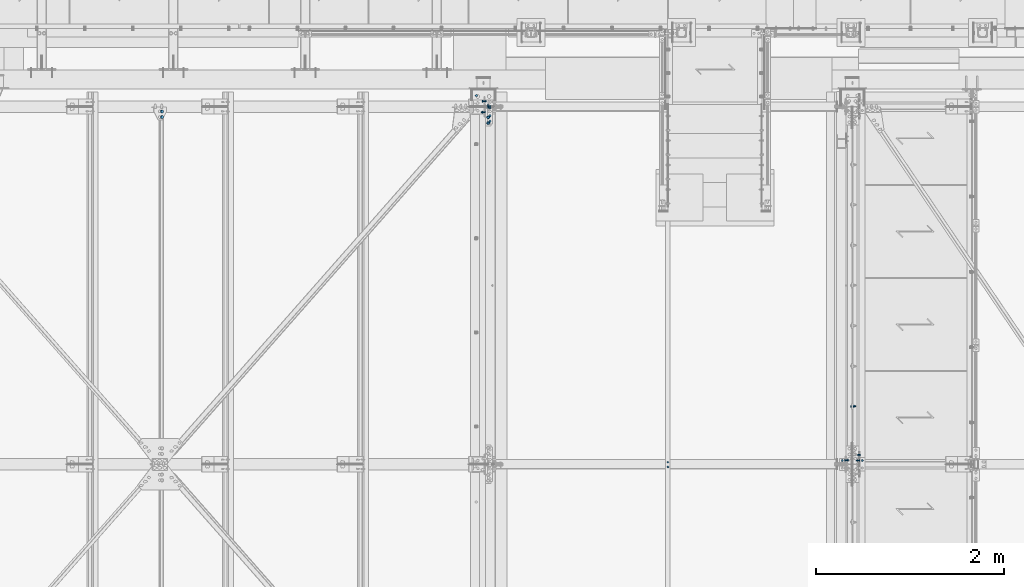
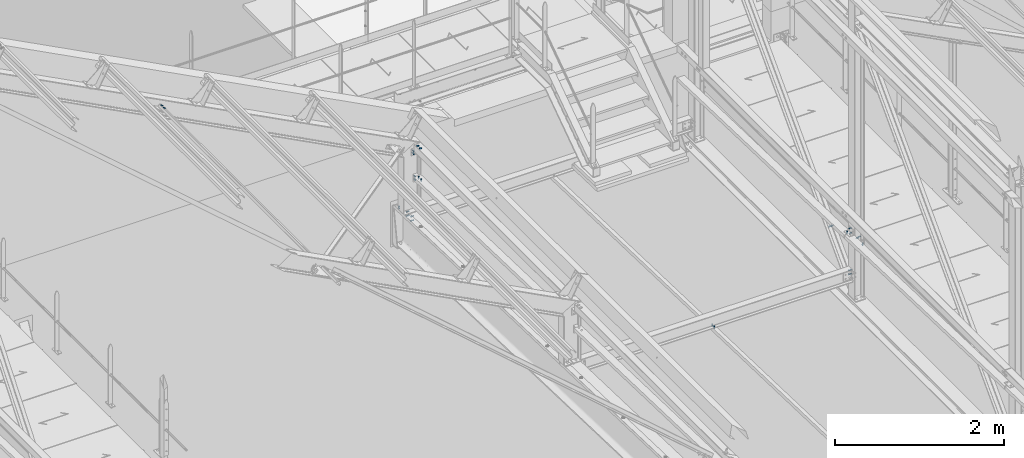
# One storey, part 285 of 362: 18 mechanical fasteners.
"""IFC2X3 building model written with IfcOpenShell, lengths in millimetres."""

from ifc_helpers import new_model, si_unit, frame, frame_2d, origin_with_axes, origin_2d_with_axis, place, context, subcontext, project, spatial, polyline, circle_curve, parameter, trimmed, segment, composite_curve, circle, outline, extrude, source, transform, mapped, material, type_object, element, save


model = new_model("IFC2X3")

# Units and contexts
model_context = context("Model", 3, precision=1e-05, world=origin_with_axes())
body_context = subcontext(model_context, "Body", "Model", "MODEL_VIEW")
ifc_project = project(units=[si_unit("LENGTHUNIT", "METRE", prefix="MILLI"), si_unit("AREAUNIT", "SQUARE_METRE"), si_unit("VOLUMEUNIT", "CUBIC_METRE"), si_unit("MASSUNIT", "GRAM", prefix="KILO"), si_unit("TIMEUNIT", "SECOND"), si_unit("PLANEANGLEUNIT", "RADIAN"), si_unit("SOLIDANGLEUNIT", "STERADIAN"), si_unit("THERMODYNAMICTEMPERATUREUNIT", "DEGREE_CELSIUS"), si_unit("LUMINOUSINTENSITYUNIT", "LUMEN")], contexts=[model_context])

# Site, building, storey
site_placement = place(None, origin_with_axes())
site = spatial("IfcSite", under=ifc_project, at=site_placement, Name="Undefined", CompositionType="ELEMENT")
building_placement = place(site_placement, origin_with_axes())
building = spatial("IfcBuilding", under=site, at=building_placement, Name="Undefined", CompositionType="ELEMENT")
storey_placement = place(building_placement, origin_with_axes())
storey = spatial("IfcBuildingStorey", under=building, at=storey_placement, Name="Undefined", CompositionType="ELEMENT", Elevation=0.0)

# Mechanical fasteners
ifc_material_1 = material(Name="6.8")
mechanical_fastener_type = type_object("IfcMechanicalFastenerType", Name="Bolt assembly")
shared_shape_1 = source(origin_with_axes(), body_context, "Body", "SweptSolid", [
    extrude(circle(Radius=15.0, at=origin_2d_with_axis()), frame((0.0, 0.0, 0.0), z_axis=(0.0, 1.0, 0.0), x_axis=(1.0, 0.0, 0.0)), (0.0, 0.0, 1.0), 4.1),
])
for number, where, z_axis, x_axis, name in (
    (1, (16133.5411394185, 15149.999981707, 10309.7121707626), (0.886081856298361, 3.500000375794e-08, -0.463528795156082), (0.0, -1.0, 0.0), "Bolt assembly"),
    (2, (19599.9999999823, 15026.5, 8550.0), (-1.0, 0.0, 0.0), (0.0, 1.0, 0.0), "Bolt assembly"),
):
    element("IfcMechanicalFastener", number, at=place(storey_placement, frame(where, z_axis=z_axis, x_axis=x_axis)), inside=storey, type_object=mechanical_fastener_type, material=ifc_material_1, Name=name, NominalDiameter=30.0, NominalLength=4.0, context=body_context, shape_type="MappedRepresentation", body=[
        mapped(shared_shape_1, transform((0.0, 0.0, 0.0))),
        mapped(shared_shape_1, transform((60.0, 0.0, 0.0))),
    ])
ifc_material_2 = material(Name="8.8-SB-ZINGUE")
shared_shape_2 = source(origin_with_axes(), body_context, "Body", "SweptSolid", [
    extrude(circle(Radius=9.0, at=origin_2d_with_axis()), frame((0.0, -10.9000000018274, 0.0), z_axis=(0.0, 1.0, 0.0), x_axis=(1.0, 0.0, 0.0)), (0.0, 0.0, 1.0), 6.0),
    extrude(circle(Radius=9.0, at=origin_2d_with_axis()), frame((0.0, 4.9000000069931, 0.0), z_axis=(0.0, 1.0, 0.0), x_axis=(1.0, 0.0, 0.0)), (0.0, 0.0, 1.0), 6.1),
    extrude(circle(Radius=9.0, at=origin_2d_with_axis()), frame((0.0, -3.99999923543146, 0.0), z_axis=(0.0, 1.0, 0.0), x_axis=(1.0, 0.0, 0.0)), (0.0, 0.0, 1.0), 8.0),
    extrude(outline(polyline([(13.85640646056, 0.0), (6.92820323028, 12.0000000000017), (-6.92820323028, 12.0000000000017), (-13.85640646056, 0.0), (-6.92820323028, -12.0000000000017), (6.92820323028, -12.0000000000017), (13.85640646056, 0.0)])), frame((0.0, -21.5600000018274, 0.0), z_axis=(0.0, 1.0, 0.0), x_axis=(1.0, 0.0, 0.0)), (0.0, 0.0, 1.0), 10.56),
    extrude(circle(Radius=8.0, at=origin_2d_with_axis()), frame((0.0, -11.0000000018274, 0.0), z_axis=(0.0, 1.0, 0.0), x_axis=(1.0, 0.0, 0.0)), (0.0, 0.0, 1.0), 50.0),
    extrude(outline(polyline([(15.3344231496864, 0.0), (7.6672115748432, 13.2800000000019), (-7.6672115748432, 13.2800000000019), (-15.3344231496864, 0.0), (-7.6672115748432, -13.2800000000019), (7.6672115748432, -13.2800000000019), (15.3344231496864, 0.0)])), frame((0.0, 11.0000000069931, 0.0), z_axis=(0.0, 1.0, 0.0), x_axis=(1.0, 0.0, 0.0)), (0.0, 0.0, 1.0), 10.56),
])
mechanical_fastener_1_placement = place(storey_placement, frame((23470.0, 12014.728612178, 7894.81795332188), z_axis=(0.0, 1.0, 0.0), x_axis=(0.0, 0.0, 1.0)))
element("IfcMechanicalFastener", 3, at=mechanical_fastener_1_placement, inside=storey, type_object=mechanical_fastener_type, material=ifc_material_2, Name="Bolt assembly", NominalDiameter=16.0, NominalLength=50.0, context=body_context, shape_type="MappedRepresentation", body=[
    mapped(shared_shape_2, transform((0.0, 0.0, 0.0))),
])
shared_shape_3 = source(origin_with_axes(), body_context, "Body", "SweptSolid", [
    extrude(circle(Radius=7.0, at=origin_2d_with_axis()), frame((0.0, -27.8982854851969, 0.0), z_axis=(0.0, 1.0, 0.0), x_axis=(1.0, 0.0, 0.0)), (0.0, 0.0, 1.0), 8.0),
    extrude(circle(Radius=7.0, at=origin_2d_with_axis()), frame((0.0, -20.0965527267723, 0.0), z_axis=(0.0, 1.0, 0.0), x_axis=(1.0, 0.0, 0.0)), (0.0, 0.0, 1.0), 5.1),
    extrude(outline(polyline([(10.39230484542, 0.0), (5.19615242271, 9.00000000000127), (-5.19615242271, 9.00000000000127), (-10.39230484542, 0.0), (-5.19615242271, -9.00000000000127), (5.19615242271, -9.00000000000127), (10.39230484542, 0.0)])), frame((0.0, -35.9182854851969, 0.0), z_axis=(0.0, 1.0, 0.0), x_axis=(1.0, 0.0, 0.0)), (0.0, 0.0, 1.0), 7.92),
    extrude(circle(Radius=6.0, at=origin_2d_with_axis()), frame((0.0, -27.9982854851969, 0.0), z_axis=(0.0, 1.0, 0.0), x_axis=(1.0, 0.0, 0.0)), (0.0, 0.0, 1.0), 30.0),
    extrude(outline(polyline([(11.5008173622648, 0.0), (5.7504086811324, 9.96000000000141), (-5.7504086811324, 9.96000000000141), (-11.5008173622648, 0.0), (-5.7504086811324, -9.96000000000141), (5.7504086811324, -9.96000000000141), (11.5008173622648, 0.0)])), frame((0.0, -14.9965527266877, 0.0), z_axis=(0.0, 1.0, 0.0), x_axis=(1.0, 0.0, 0.0)), (0.0, 0.0, 1.0), 7.92),
])
mechanical_fastener_2_placement = place(storey_placement, frame((21510.0000126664, 11396.5448201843, 7491.75207826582), z_axis=(0.0, -0.999506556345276, 0.031410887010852), x_axis=(-1.0, 0.0, 0.0)))
element("IfcMechanicalFastener", 4, at=mechanical_fastener_2_placement, inside=storey, type_object=mechanical_fastener_type, material=ifc_material_2, Name="Bolt assembly", NominalDiameter=12.0, NominalLength=30.0, context=body_context, shape_type="MappedRepresentation", body=[
    mapped(shared_shape_3, transform((0.0, 0.0, -25.0))),
    mapped(shared_shape_3, transform((0.0, 0.0, 25.0))),
])
ifc_material_3 = material(Name="#_SB-8.8-ZINGUE")
shared_shape_4 = source(origin_with_axes(), body_context, "Body", "SweptSolid", [
    extrude(circle(Radius=7.0, at=origin_2d_with_axis()), frame((0.0, -0.100011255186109, 0.0), z_axis=(0.0, 1.0, 0.0), x_axis=(1.0, 0.0, 0.0)), (0.0, 0.0, 1.0), 17.3),
    extrude(outline(composite_curve([segment(polyline([(-7.0, 7.0), (7.0, 7.0)]), True, "CONTINUOUS"), segment(trimmed(circle_curve(frame_2d((7.0, 0.0), x_axis=(0.0, 1.0)), 7.0), [parameter(0.0)], [parameter(3.14159265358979)], False, "PARAMETER"), True, "CONTINUOUS"), segment(polyline([(7.0, -7.0), (-7.0, -7.0)]), True, "CONTINUOUS"), segment(trimmed(circle_curve(frame_2d((-7.0, 0.0), x_axis=(0.0, -1.0)), 7.0), [parameter(0.0)], [parameter(3.14159265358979)], False, "PARAMETER"), True, "DISCONTINUOUS")], self_intersect=False)), frame((0.0, -1.90000109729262, 0.0), z_axis=(0.0, 1.0, 0.0), x_axis=(1.0, 0.0, 0.0)), (0.0, 0.0, 1.0), 2.0),
    extrude(outline(polyline([(10.39230484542, 0.0), (5.19615242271, 9.00000000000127), (-5.19615242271, 9.00000000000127), (-10.39230484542, 0.0), (-5.19615242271, -9.00000000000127), (5.19615242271, -9.00000000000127), (10.39230484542, 0.0)])), frame((0.0, -13.8800244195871, 0.0), z_axis=(0.0, 1.0, 0.0), x_axis=(1.0, 0.0, 0.0)), (0.0, 0.0, 1.0), 7.92),
    extrude(circle(Radius=6.0, at=origin_2d_with_axis()), frame((0.0, -5.96002441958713, 0.0), z_axis=(0.0, 1.0, 0.0), x_axis=(1.0, 0.0, 0.0)), (0.0, 0.0, 1.0), 40.0),
    extrude(circle(Radius=10.8, at=origin_2d_with_axis()), frame((0.0, -5.96002441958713, 0.0), z_axis=(0.0, 1.0, 0.0), x_axis=(1.0, 0.0, 0.0)), (0.0, 0.0, 1.0), 3.96),
    extrude(outline(polyline([(11.5008173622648, 0.0), (5.7504086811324, 9.96000000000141), (-5.7504086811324, 9.96000000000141), (-11.5008173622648, 0.0), (-5.7504086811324, -9.96000000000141), (5.7504086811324, -9.96000000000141), (11.5008173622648, 0.0)])), frame((0.0, 17.2000007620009, 0.0), z_axis=(0.0, 1.0, 0.0), x_axis=(1.0, 0.0, 0.0)), (0.0, 0.0, 1.0), 7.92),
])
mechanical_fastener_3_placement = place(storey_placement, frame((19475.0, 15317.3222832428, 7568.63375588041), z_axis=(0.0, -0.999506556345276, 0.031410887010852), x_axis=(-1.0, 0.0, 0.0)))
element("IfcMechanicalFastener", 5, at=mechanical_fastener_3_placement, inside=storey, type_object=mechanical_fastener_type, material=ifc_material_3, Name="Bolt assembly", NominalDiameter=12.0, NominalLength=40.0, context=body_context, shape_type="MappedRepresentation", body=[
    mapped(shared_shape_4, transform((0.0, 0.0, 0.0))),
])
shared_shape_5 = source(origin_with_axes(), body_context, "Body", "SweptSolid", [
    extrude(circle(Radius=7.0, at=origin_2d_with_axis()), frame((0.0, -4.90000000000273, 0.0), z_axis=(0.0, 1.0, 0.0), x_axis=(1.0, 0.0, 0.0)), (0.0, 0.0, 1.0), 5.0),
    extrude(circle(Radius=7.0, at=origin_2d_with_axis()), frame((0.0, -0.100011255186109, 0.0), z_axis=(0.0, 1.0, 0.0), x_axis=(1.0, 0.0, 0.0)), (0.0, 0.0, 1.0), 7.1),
    extrude(outline(polyline([(10.39230484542, 0.0), (5.19615242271, 9.00000000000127), (-5.19615242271, 9.00000000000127), (-10.39230484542, 0.0), (-5.19615242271, -9.00000000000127), (5.19615242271, -9.00000000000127), (10.39230484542, 0.0)])), frame((0.0, -12.9200004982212, 0.0), z_axis=(0.0, 1.0, 0.0), x_axis=(1.0, 0.0, 0.0)), (0.0, 0.0, 1.0), 7.92),
    extrude(circle(Radius=6.0, at=origin_2d_with_axis()), frame((0.0, -5.00000000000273, 0.0), z_axis=(0.0, 1.0, 0.0), x_axis=(1.0, 0.0, 0.0)), (0.0, 0.0, 1.0), 30.0),
    extrude(outline(polyline([(11.5008173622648, 0.0), (5.7504086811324, 9.96000000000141), (-5.7504086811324, 9.96000000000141), (-11.5008173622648, 0.0), (-5.7504086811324, -9.96000000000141), (5.7504086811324, -9.96000000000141), (11.5008173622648, 0.0)])), frame((0.0, 7.0, 0.0), z_axis=(0.0, 1.0, 0.0), x_axis=(1.0, 0.0, 0.0)), (0.0, 0.0, 1.0), 7.92),
])
mechanical_fastener_4_placement = place(storey_placement, frame((23576.49994422, 11439.9999999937, 7950.00000000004), z_axis=(0.0, -1.0, 0.0), x_axis=(-1.0, 0.0, 0.0)))
element("IfcMechanicalFastener", 6, at=mechanical_fastener_4_placement, inside=storey, type_object=mechanical_fastener_type, material=ifc_material_2, Name="Bolt assembly", NominalDiameter=12.0, NominalLength=30.0, context=body_context, shape_type="MappedRepresentation", body=[
    mapped(shared_shape_5, transform((0.0, 0.0, 0.0))),
])
shared_shape_6 = source(origin_with_axes(), body_context, "Body", "SweptSolid", [
    extrude(circle(Radius=7.0, at=origin_2d_with_axis()), frame((0.0, -0.108038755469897, 0.0), z_axis=(0.0, 1.0, 0.0), x_axis=(1.0, 0.0, 0.0)), (0.0, 0.0, 1.0), 5.1),
    extrude(circle(Radius=7.0, at=origin_2d_with_axis()), frame((0.0, -6.4, 0.0), z_axis=(0.0, 1.0, 0.0), x_axis=(1.0, 0.0, 0.0)), (0.0, 0.0, 1.0), 6.0),
    extrude(outline(polyline([(10.39230484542, 0.0), (5.19615242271, 9.00000000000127), (-5.19615242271, 9.00000000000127), (-10.39230484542, 0.0), (-5.19615242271, -9.00000000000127), (5.19615242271, -9.00000000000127), (10.39230484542, 0.0)])), frame((0.0, -14.42, 0.0), z_axis=(0.0, 1.0, 0.0), x_axis=(1.0, 0.0, 0.0)), (0.0, 0.0, 1.0), 7.92),
    extrude(circle(Radius=6.0, at=origin_2d_with_axis()), frame((0.0, -6.5, 0.0), z_axis=(0.0, 1.0, 0.0), x_axis=(1.0, 0.0, 0.0)), (0.0, 0.0, 1.0), 30.0),
    extrude(outline(polyline([(11.5008173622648, 0.0), (5.7504086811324, 9.96000000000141), (-5.7504086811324, 9.96000000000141), (-11.5008173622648, 0.0), (-5.7504086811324, -9.96000000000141), (5.7504086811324, -9.96000000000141), (11.5008173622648, 0.0)])), frame((0.0, 4.99194106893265, 0.0), z_axis=(0.0, 1.0, 0.0), x_axis=(1.0, 0.0, 0.0)), (0.0, 0.0, 1.0), 7.92),
])
mechanical_fastener_5_placement = place(storey_placement, frame((23541.4918295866, 11499.9999999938, 8015.00000000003), z_axis=(0.0, 0.0, -1.0), x_axis=(0.0, -1.0, 0.0)))
element("IfcMechanicalFastener", 7, at=mechanical_fastener_5_placement, inside=storey, type_object=mechanical_fastener_type, material=ifc_material_2, Name="Bolt assembly", NominalDiameter=12.0, NominalLength=30.0, context=body_context, shape_type="MappedRepresentation", body=[
    mapped(shared_shape_6, transform((0.0, 0.0, 0.0))),
])
shared_shape_7 = source(origin_with_axes(), body_context, "Body", "SweptSolid", [
    extrude(circle(Radius=7.0, at=origin_2d_with_axis()), frame((0.0, -0.10007666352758, 0.0), z_axis=(0.0, 1.0, 0.0), x_axis=(1.0, 0.0, 0.0)), (0.0, 0.0, 1.0), 8.6),
    extrude(circle(Radius=7.0, at=origin_2d_with_axis()), frame((0.0, -4.89994333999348, 0.0), z_axis=(0.0, 1.0, 0.0), x_axis=(1.0, 0.0, 0.0)), (0.0, 0.0, 1.0), 5.0),
    extrude(outline(polyline([(10.39230484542, 0.0), (5.19615242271, 9.00000000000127), (-5.19615242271, 9.00000000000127), (-10.39230484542, 0.0), (-5.19615242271, -9.00000000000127), (5.19615242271, -9.00000000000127), (10.39230484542, 0.0)])), frame((0.0, -12.9199433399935, 0.0), z_axis=(0.0, 1.0, 0.0), x_axis=(1.0, 0.0, 0.0)), (0.0, 0.0, 1.0), 7.92),
    extrude(circle(Radius=6.0, at=origin_2d_with_axis()), frame((0.0, -4.99994333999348, 0.0), z_axis=(0.0, 1.0, 0.0), x_axis=(1.0, 0.0, 0.0)), (0.0, 0.0, 1.0), 30.0),
    extrude(outline(polyline([(11.5008173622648, 0.0), (5.7504086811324, 9.96000000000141), (-5.7504086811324, 9.96000000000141), (-11.5008173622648, 0.0), (-5.7504086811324, -9.96000000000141), (5.7504086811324, -9.96000000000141), (11.5008173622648, 0.0)])), frame((0.0, 8.49994421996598, 0.0), z_axis=(0.0, 1.0, 0.0), x_axis=(1.0, 0.0, 0.0)), (0.0, 0.0, 1.0), 7.92),
])
mechanical_fastener_6_placement = place(storey_placement, frame((23536.49994422, 11440.0000009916, 8070.00000000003), z_axis=(0.0, 1.0, 0.0), x_axis=(0.0, 0.0, -1.0)))
element("IfcMechanicalFastener", 8, at=mechanical_fastener_6_placement, inside=storey, type_object=mechanical_fastener_type, material=ifc_material_2, Name="Bolt assembly", NominalDiameter=12.0, NominalLength=30.0, context=body_context, shape_type="MappedRepresentation", body=[
    mapped(shared_shape_7, transform((0.0, 0.0, 0.0))),
])
shared_shape_8 = source(origin_with_axes(), body_context, "Body", "SweptSolid", [
    extrude(circle(Radius=7.0, at=origin_2d_with_axis()), frame((0.0, -2.99999932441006, 0.0), z_axis=(0.0, 1.0, 0.0), x_axis=(1.0, 0.0, 0.0)), (0.0, 0.0, 1.0), 6.2),
    extrude(circle(Radius=7.0, at=origin_2d_with_axis()), frame((0.0, 3.40000111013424, 0.0), z_axis=(0.0, 1.0, 0.0), x_axis=(1.0, 0.0, 0.0)), (0.0, 0.0, 1.0), 6.1),
    extrude(outline(polyline([(10.39230484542, 0.0), (5.19615242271, 9.00000000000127), (-5.19615242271, 9.00000000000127), (-10.39230484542, 0.0), (-5.19615242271, -9.00000000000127), (5.19615242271, -9.00000000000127), (10.39230484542, 0.0)])), frame((0.0, -11.0199999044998, 0.0), z_axis=(0.0, 1.0, 0.0), x_axis=(1.0, 0.0, 0.0)), (0.0, 0.0, 1.0), 7.92),
    extrude(circle(Radius=6.0, at=origin_2d_with_axis()), frame((0.0, -3.09999932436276, 0.0), z_axis=(0.0, 1.0, 0.0), x_axis=(1.0, 0.0, 0.0)), (0.0, 0.0, 1.0), 30.0),
    extrude(outline(polyline([(11.5008173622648, 0.0), (5.7504086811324, 9.96000000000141), (-5.7504086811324, 9.96000000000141), (-11.5008173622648, 0.0), (-5.7504086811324, -9.96000000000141), (5.7504086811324, -9.96000000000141), (11.5008173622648, 0.0)])), frame((0.0, 9.50000815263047, 0.0), z_axis=(0.0, 1.0, 0.0), x_axis=(1.0, 0.0, 0.0)), (0.0, 0.0, 1.0), 7.92),
])
mechanical_fastener_7_placement = place(storey_placement, frame((19620.0, 15200.0, 7988.56857969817), z_axis=(1.0, 0.0, 0.0), x_axis=(0.0, 0.0, 1.0)))
element("IfcMechanicalFastener", 9, at=mechanical_fastener_7_placement, inside=storey, type_object=mechanical_fastener_type, material=ifc_material_2, Name="Bolt assembly", NominalDiameter=12.0, NominalLength=30.0, context=body_context, shape_type="MappedRepresentation", body=[
    mapped(shared_shape_8, transform((0.0, 0.0, 0.0))),
    mapped(shared_shape_8, transform((49.9999999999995, 0.0, -3.63797880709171e-12))),
])
shared_shape_9 = source(origin_with_axes(), body_context, "Body", "SweptSolid", [
    extrude(circle(Radius=7.0, at=origin_2d_with_axis()), frame((0.0, -3.89991628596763, 0.0), z_axis=(0.0, 1.0, 0.0), x_axis=(1.0, 0.0, 0.0)), (0.0, 0.0, 1.0), 4.0),
    extrude(outline(composite_curve([segment(polyline([(-7.0, 7.0), (7.0, 7.0)]), True, "CONTINUOUS"), segment(trimmed(circle_curve(frame_2d((7.0, 0.0), x_axis=(0.0, 1.0)), 7.0), [parameter(0.0)], [parameter(3.14159265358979)], False, "PARAMETER"), True, "CONTINUOUS"), segment(polyline([(7.0, -7.0), (-7.0, -7.0)]), True, "CONTINUOUS"), segment(trimmed(circle_curve(frame_2d((-7.0, 0.0), x_axis=(0.0, -1.0)), 7.0), [parameter(0.0)], [parameter(3.14159265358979)], False, "PARAMETER"), True, "DISCONTINUOUS")], self_intersect=False)), frame((0.0, -0.100011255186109, 0.0), z_axis=(0.0, 1.0, 0.0), x_axis=(1.0, 0.0, 0.0)), (0.0, 0.0, 1.0), 6.1),
    extrude(outline(polyline([(10.39230484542, 0.0), (5.19615242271, 9.00000000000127), (-5.19615242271, 9.00000000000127), (-10.39230484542, 0.0), (-5.19615242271, -9.00000000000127), (5.19615242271, -9.00000000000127), (10.39230484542, 0.0)])), frame((0.0, -11.9199162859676, 0.0), z_axis=(0.0, 1.0, 0.0), x_axis=(1.0, 0.0, 0.0)), (0.0, 0.0, 1.0), 7.92),
    extrude(circle(Radius=6.0, at=origin_2d_with_axis()), frame((0.0, -3.99991628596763, 0.0), z_axis=(0.0, 1.0, 0.0), x_axis=(1.0, 0.0, 0.0)), (0.0, 0.0, 1.0), 30.0),
    extrude(circle(Radius=10.8, at=origin_2d_with_axis()), frame((0.0, 6.0, 0.0), z_axis=(0.0, 1.0, 0.0), x_axis=(1.0, 0.0, 0.0)), (0.0, 0.0, 1.0), 3.96),
    extrude(outline(polyline([(11.5008173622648, 0.0), (5.7504086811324, 9.96000000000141), (-5.7504086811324, 9.96000000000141), (-11.5008173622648, 0.0), (-5.7504086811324, -9.96000000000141), (5.7504086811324, -9.96000000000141), (11.5008173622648, 0.0)])), frame((0.0, 9.9600084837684, 0.0), z_axis=(0.0, 1.0, 0.0), x_axis=(1.0, 0.0, 0.0)), (0.0, 0.0, 1.0), 7.92),
])
mechanical_fastener_8_placement = place(storey_placement, frame((19619.9999999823, 15045.0444201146, 8078.43882412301), z_axis=(-1.0, 0.0, 0.0), x_axis=(0.0, 0.99950644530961, -0.0314144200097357)))
element("IfcMechanicalFastener", 10, at=mechanical_fastener_8_placement, inside=storey, type_object=mechanical_fastener_type, material=ifc_material_2, Name="Bolt assembly", NominalDiameter=12.0, NominalLength=30.0, context=body_context, shape_type="MappedRepresentation", body=[
    mapped(shared_shape_9, transform((0.0, 0.0, 0.0))),
    mapped(shared_shape_9, transform((60.0, 0.0, 0.0))),
])
shared_shape_10 = source(origin_with_axes(), body_context, "Body", "SweptSolid", [
    extrude(circle(Radius=7.0, at=origin_2d_with_axis()), frame((0.0, -3.20010478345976, 0.0), z_axis=(0.0, 1.0, 0.0), x_axis=(1.0, 0.0, 0.0)), (0.0, 0.0, 1.0), 6.3),
    extrude(circle(Radius=7.0, at=origin_2d_with_axis()), frame((0.0, -13.4001048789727, 0.0), z_axis=(0.0, 1.0, 0.0), x_axis=(1.0, 0.0, 0.0)), (0.0, 0.0, 1.0), 10.0),
    extrude(outline(polyline([(10.39230484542, 0.0), (5.19615242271, 9.00000000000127), (-5.19615242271, 9.00000000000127), (-10.39230484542, 0.0), (-5.19615242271, -9.00000000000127), (5.19615242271, -9.00000000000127), (10.39230484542, 0.0)])), frame((0.0, -21.4201048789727, 0.0), z_axis=(0.0, 1.0, 0.0), x_axis=(1.0, 0.0, 0.0)), (0.0, 0.0, 1.0), 7.92),
    extrude(circle(Radius=6.0, at=origin_2d_with_axis()), frame((0.0, -13.5000574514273, 0.0), z_axis=(0.0, 1.0, 0.0), x_axis=(1.0, 0.0, 0.0)), (0.0, 0.0, 1.0), 40.0),
    extrude(outline(polyline([(11.5008173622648, 0.0), (5.7504086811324, 9.96000000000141), (-5.7504086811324, 9.96000000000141), (-11.5008173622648, 0.0), (-5.7504086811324, -9.96000000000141), (5.7504086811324, -9.96000000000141), (11.5008173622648, 0.0)])), frame((0.0, 3.09989502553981, 0.0), z_axis=(0.0, 1.0, 0.0), x_axis=(1.0, 0.0, 0.0)), (0.0, 0.0, 1.0), 7.92),
])
mechanical_fastener_9_placement = place(storey_placement, frame((19599.9999999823, 15200.000104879, 8370.0), z_axis=(-1.0, 0.0, 0.0), x_axis=(0.0, 0.0, 1.0)))
element("IfcMechanicalFastener", 11, at=mechanical_fastener_9_placement, inside=storey, type_object=mechanical_fastener_type, material=ifc_material_2, Name="Bolt assembly", NominalDiameter=12.0, NominalLength=40.0, context=body_context, shape_type="MappedRepresentation", body=[
    mapped(shared_shape_10, transform((0.0, 0.0, 0.0))),
    mapped(shared_shape_10, transform((40.0, 0.0, 0.0))),
])
shared_shape_11 = source(origin_with_axes(), body_context, "Body", "SweptSolid", [
    extrude(circle(Radius=7.0, at=origin_2d_with_axis()), frame((0.0, -1.35617756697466, 0.0), z_axis=(0.0, 1.0, 0.0), x_axis=(1.0, 0.0, 0.0)), (0.0, 0.0, 1.0), 4.1),
    extrude(circle(Radius=7.0, at=origin_2d_with_axis()), frame((0.0, -8.15617756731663, 0.0), z_axis=(0.0, 1.0, 0.0), x_axis=(1.0, 0.0, 0.0)), (0.0, 0.0, 1.0), 7.0),
    extrude(outline(polyline([(10.39230484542, 0.0), (5.19615242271, 9.00000000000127), (-5.19615242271, 9.00000000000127), (-10.39230484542, 0.0), (-5.19615242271, -9.00000000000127), (5.19615242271, -9.00000000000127), (10.39230484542, 0.0)])), frame((0.0, -16.1761775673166, 0.0), z_axis=(0.0, 1.0, 0.0), x_axis=(1.0, 0.0, 0.0)), (0.0, 0.0, 1.0), 7.92),
    extrude(circle(Radius=6.0, at=origin_2d_with_axis()), frame((0.0, -8.25617756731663, 0.0), z_axis=(0.0, 1.0, 0.0), x_axis=(1.0, 0.0, 0.0)), (0.0, 0.0, 1.0), 30.0),
    extrude(outline(polyline([(11.5008173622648, 0.0), (5.7504086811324, 9.96000000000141), (-5.7504086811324, 9.96000000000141), (-11.5008173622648, 0.0), (-5.7504086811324, -9.96000000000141), (5.7504086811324, -9.96000000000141), (11.5008173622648, 0.0)])), frame((0.0, 2.74382243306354, 0.0), z_axis=(0.0, 1.0, 0.0), x_axis=(1.0, 0.0, 0.0)), (0.0, 0.0, 1.0), 7.92),
])
mechanical_fastener_10_placement = place(storey_placement, frame((23363.5001163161, 11438.6738784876, 8194.52879749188), z_axis=(0.0, 0.999506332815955, -0.0314179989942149), x_axis=(1.0, 0.0, 0.0)))
element("IfcMechanicalFastener", 12, at=mechanical_fastener_10_placement, inside=storey, type_object=mechanical_fastener_type, material=ifc_material_2, Name="Bolt assembly", NominalDiameter=12.0, NominalLength=30.0, context=body_context, shape_type="MappedRepresentation", body=[
    mapped(shared_shape_11, transform((0.0, 0.0, 0.0))),
])
shared_shape_12 = source(origin_with_axes(), body_context, "Body", "SweptSolid", [
    extrude(circle(Radius=7.0, at=origin_2d_with_axis()), frame((0.0, -0.10007666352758, 0.0), z_axis=(0.0, 1.0, 0.0), x_axis=(1.0, 0.0, 0.0)), (0.0, 0.0, 1.0), 8.6),
    extrude(circle(Radius=7.0, at=origin_2d_with_axis()), frame((0.0, -6.9, 0.0), z_axis=(0.0, 1.0, 0.0), x_axis=(1.0, 0.0, 0.0)), (0.0, 0.0, 1.0), 7.0),
    extrude(outline(polyline([(10.39230484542, 0.0), (5.19615242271, 9.00000000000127), (-5.19615242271, 9.00000000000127), (-10.39230484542, 0.0), (-5.19615242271, -9.00000000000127), (5.19615242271, -9.00000000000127), (10.39230484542, 0.0)])), frame((0.0, -14.92, 0.0), z_axis=(0.0, 1.0, 0.0), x_axis=(1.0, 0.0, 0.0)), (0.0, 0.0, 1.0), 7.92),
    extrude(circle(Radius=6.0, at=origin_2d_with_axis()), frame((0.0, -7.0, 0.0), z_axis=(0.0, 1.0, 0.0), x_axis=(1.0, 0.0, 0.0)), (0.0, 0.0, 1.0), 30.0),
    extrude(outline(polyline([(11.5008173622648, 0.0), (5.7504086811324, 9.96000000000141), (-5.7504086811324, 9.96000000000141), (-11.5008173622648, 0.0), (-5.7504086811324, -9.96000000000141), (5.7504086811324, -9.96000000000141), (11.5008173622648, 0.0)])), frame((0.0, 8.49988372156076, 0.0), z_axis=(0.0, 1.0, 0.0), x_axis=(1.0, 0.0, 0.0)), (0.0, 0.0, 1.0), 7.92),
])
mechanical_fastener_11_placement = place(storey_placement, frame((23403.5001162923, 11439.999998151, 8235.76366746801), z_axis=(0.0, 0.0, -1.0), x_axis=(0.0, 1.0, 0.0)))
element("IfcMechanicalFastener", 13, at=mechanical_fastener_11_placement, inside=storey, type_object=mechanical_fastener_type, material=ifc_material_2, Name="Bolt assembly", NominalDiameter=12.0, NominalLength=30.0, context=body_context, shape_type="MappedRepresentation", body=[
    mapped(shared_shape_12, transform((0.0, 0.0, 0.0))),
])
shared_shape_13 = source(origin_with_axes(), body_context, "Body", "SweptSolid", [
    extrude(circle(Radius=7.0, at=origin_2d_with_axis()), frame((0.0, -0.10007666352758, 0.0), z_axis=(0.0, 1.0, 0.0), x_axis=(1.0, 0.0, 0.0)), (0.0, 0.0, 1.0), 8.6),
    extrude(circle(Radius=7.0, at=origin_2d_with_axis()), frame((0.0, -3.89999843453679, 0.0), z_axis=(0.0, 1.0, 0.0), x_axis=(1.0, 0.0, 0.0)), (0.0, 0.0, 1.0), 4.0),
    extrude(outline(polyline([(10.39230484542, 0.0), (5.19615242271, 9.00000000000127), (-5.19615242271, 9.00000000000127), (-10.39230484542, 0.0), (-5.19615242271, -9.00000000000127), (5.19615242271, -9.00000000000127), (10.39230484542, 0.0)])), frame((0.0, -11.9199984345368, 0.0), z_axis=(0.0, 1.0, 0.0), x_axis=(1.0, 0.0, 0.0)), (0.0, 0.0, 1.0), 7.92),
    extrude(circle(Radius=6.0, at=origin_2d_with_axis()), frame((0.0, -3.99999923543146, 0.0), z_axis=(0.0, 1.0, 0.0), x_axis=(1.0, 0.0, 0.0)), (0.0, 0.0, 1.0), 30.0),
    extrude(outline(polyline([(11.5008173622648, 0.0), (5.7504086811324, 9.96000000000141), (-5.7504086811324, 9.96000000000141), (-11.5008173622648, 0.0), (-5.7504086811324, -9.96000000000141), (5.7504086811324, -9.96000000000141), (11.5008173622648, 0.0)])), frame((0.0, 8.49988372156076, 0.0), z_axis=(0.0, 1.0, 0.0), x_axis=(1.0, 0.0, 0.0)), (0.0, 0.0, 1.0), 7.92),
])
mechanical_fastener_12_placement = place(storey_placement, frame((23403.5001162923, 11439.999998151, 8165.72910347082), z_axis=(0.0, 0.0, -1.0), x_axis=(0.0, 1.0, 0.0)))
element("IfcMechanicalFastener", 14, at=mechanical_fastener_12_placement, inside=storey, type_object=mechanical_fastener_type, material=ifc_material_2, Name="Bolt assembly", NominalDiameter=12.0, NominalLength=30.0, context=body_context, shape_type="MappedRepresentation", body=[
    mapped(shared_shape_13, transform((0.0, 0.0, 0.0))),
])
shared_shape_14 = source(origin_with_axes(), body_context, "Body", "SweptSolid", [
    extrude(circle(Radius=7.0, at=origin_2d_with_axis()), frame((0.0, -0.100011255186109, 0.0), z_axis=(0.0, 1.0, 0.0), x_axis=(1.0, 0.0, 0.0)), (0.0, 0.0, 1.0), 8.6),
    extrude(circle(Radius=7.0, at=origin_2d_with_axis()), frame((0.0, -9.9, 0.0), z_axis=(0.0, 1.0, 0.0), x_axis=(1.0, 0.0, 0.0)), (0.0, 0.0, 1.0), 10.0),
    extrude(outline(polyline([(10.39230484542, 0.0), (5.19615242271, 9.00000000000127), (-5.19615242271, 9.00000000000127), (-10.39230484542, 0.0), (-5.19615242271, -9.00000000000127), (5.19615242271, -9.00000000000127), (10.39230484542, 0.0)])), frame((0.0, -17.92, 0.0), z_axis=(0.0, 1.0, 0.0), x_axis=(1.0, 0.0, 0.0)), (0.0, 0.0, 1.0), 7.92),
    extrude(circle(Radius=6.0, at=origin_2d_with_axis()), frame((0.0, -10.0000010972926, 0.0), z_axis=(0.0, 1.0, 0.0), x_axis=(1.0, 0.0, 0.0)), (0.0, 0.0, 1.0), 40.0),
    extrude(outline(polyline([(11.5008173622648, 0.0), (5.7504086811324, 9.96000000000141), (-5.7504086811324, 9.96000000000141), (-11.5008173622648, 0.0), (-5.7504086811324, -9.96000000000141), (5.7504086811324, -9.96000000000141), (11.5008173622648, 0.0)])), frame((0.0, 8.49999994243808, 0.0), z_axis=(0.0, 1.0, 0.0), x_axis=(1.0, 0.0, 0.0)), (0.0, 0.0, 1.0), 7.92),
])
for number, where, z_axis, x_axis, name in (
    (15, (23403.5000013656, 11445.0000542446, 7630.29669455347), (0.0, 0.0, -1.0), (0.0, 1.0, 0.0), "Bolt assembly"),
    (16, (23403.5000013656, 11445.0000542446, 7570.26707269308), (0.0, 0.0, -1.0), (0.0, 1.0, 0.0), "Bolt assembly"),
):
    element("IfcMechanicalFastener", number, at=place(storey_placement, frame(where, z_axis=z_axis, x_axis=x_axis)), inside=storey, type_object=mechanical_fastener_type, material=ifc_material_2, Name=name, NominalDiameter=12.0, NominalLength=40.0, context=body_context, shape_type="MappedRepresentation", body=[
        mapped(shared_shape_14, transform((0.0, 0.0, 0.0))),
    ])
shared_shape_15 = source(origin_with_axes(), body_context, "Body", "SweptSolid", [
    extrude(circle(Radius=7.0, at=origin_2d_with_axis()), frame((0.0, -5.45000018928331, 0.0), z_axis=(0.0, 1.0, 0.0), x_axis=(1.0, 0.0, 0.0)), (0.0, 0.0, 1.0), 11.1),
    extrude(circle(Radius=7.0, at=origin_2d_with_axis()), frame((0.0, 5.90002706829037, 0.0), z_axis=(0.0, 1.0, 0.0), x_axis=(1.0, 0.0, 0.0)), (0.0, 0.0, 1.0), 10.1),
    extrude(outline(polyline([(10.39230484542, 0.0), (5.19615242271, 9.00000000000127), (-5.19615242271, 9.00000000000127), (-10.39230484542, 0.0), (-5.19615242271, -9.00000000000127), (5.19615242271, -9.00000000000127), (10.39230484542, 0.0)])), frame((0.0, -13.4700001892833, 0.0), z_axis=(0.0, 1.0, 0.0), x_axis=(1.0, 0.0, 0.0)), (0.0, 0.0, 1.0), 7.92),
    extrude(circle(Radius=6.0, at=origin_2d_with_axis()), frame((0.0, -5.55000018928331, 0.0), z_axis=(0.0, 1.0, 0.0), x_axis=(1.0, 0.0, 0.0)), (0.0, 0.0, 1.0), 40.0),
    extrude(outline(polyline([(11.5008173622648, 0.0), (5.7504086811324, 9.96000000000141), (-5.7504086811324, 9.96000000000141), (-11.5008173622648, 0.0), (-5.7504086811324, -9.96000000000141), (5.7504086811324, -9.96000000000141), (11.5008173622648, 0.0)])), frame((0.0, 15.9999999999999, 0.0), z_axis=(0.0, 1.0, 0.0), x_axis=(1.0, 0.0, 0.0)), (0.0, 0.0, 1.0), 7.92),
])
mechanical_fastener_13_placement = place(storey_placement, frame((19550.0, 15257.9778056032, 7480.45443624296), z_axis=(7.58071938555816e-11, 0.0314107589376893, 0.999506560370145), x_axis=(0.0, -0.999506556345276, 0.031410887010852)))
element("IfcMechanicalFastener", 17, at=mechanical_fastener_13_placement, inside=storey, type_object=mechanical_fastener_type, material=ifc_material_2, Name="Bolt assembly", NominalDiameter=12.0, NominalLength=40.0, context=body_context, shape_type="MappedRepresentation", body=[
    mapped(shared_shape_15, transform((0.0, 0.0, -30.0))),
    mapped(shared_shape_15, transform((0.0, 0.0, 30.0))),
])
shared_shape_16 = source(origin_with_axes(), body_context, "Body", "SweptSolid", [
    extrude(circle(Radius=7.0, at=origin_2d_with_axis()), frame((0.0, -5.65000019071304, 0.0), z_axis=(0.0, 1.0, 0.0), x_axis=(1.0, 0.0, 0.0)), (0.0, 0.0, 1.0), 11.2),
    extrude(circle(Radius=7.0, at=origin_2d_with_axis()), frame((0.0, -15.9000004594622, 0.0), z_axis=(0.0, 1.0, 0.0), x_axis=(1.0, 0.0, 0.0)), (0.0, 0.0, 1.0), 10.0),
    extrude(outline(polyline([(10.39230484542, 0.0), (5.19615242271, 9.00000000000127), (-5.19615242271, 9.00000000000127), (-10.39230484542, 0.0), (-5.19615242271, -9.00000000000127), (5.19615242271, -9.00000000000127), (10.39230484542, 0.0)])), frame((0.0, -23.9200004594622, 0.0), z_axis=(0.0, 1.0, 0.0), x_axis=(1.0, 0.0, 0.0)), (0.0, 0.0, 1.0), 7.92),
    extrude(circle(Radius=6.0, at=origin_2d_with_axis()), frame((0.0, -16.0000004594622, 0.0), z_axis=(0.0, 1.0, 0.0), x_axis=(1.0, 0.0, 0.0)), (0.0, 0.0, 1.0), 40.0),
    extrude(outline(polyline([(11.5008173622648, 0.0), (5.7504086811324, 9.96000000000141), (-5.7504086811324, 9.96000000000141), (-11.5008173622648, 0.0), (-5.7504086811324, -9.96000000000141), (5.7504086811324, -9.96000000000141), (11.5008173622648, 0.0)])), frame((0.0, 5.55000018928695, 0.0), z_axis=(0.0, 1.0, 0.0), x_axis=(1.0, 0.0, 0.0)), (0.0, 0.0, 1.0), 7.92),
])
mechanical_fastener_14_placement = place(storey_placement, frame((19550.0, 15142.0341844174, 7484.09816461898), z_axis=(7.58071938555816e-11, 0.0314107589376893, 0.999506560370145), x_axis=(3.14103090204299e-11, 0.999506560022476, -0.0314107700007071)))
element("IfcMechanicalFastener", 18, at=mechanical_fastener_14_placement, inside=storey, type_object=mechanical_fastener_type, material=ifc_material_2, Name="Bolt assembly", NominalDiameter=12.0, NominalLength=40.0, context=body_context, shape_type="MappedRepresentation", body=[
    mapped(shared_shape_16, transform((0.0, 0.0, -30.0))),
    mapped(shared_shape_16, transform((0.0, 0.0, 30.0))),
])

save(model, "model.ifc")
